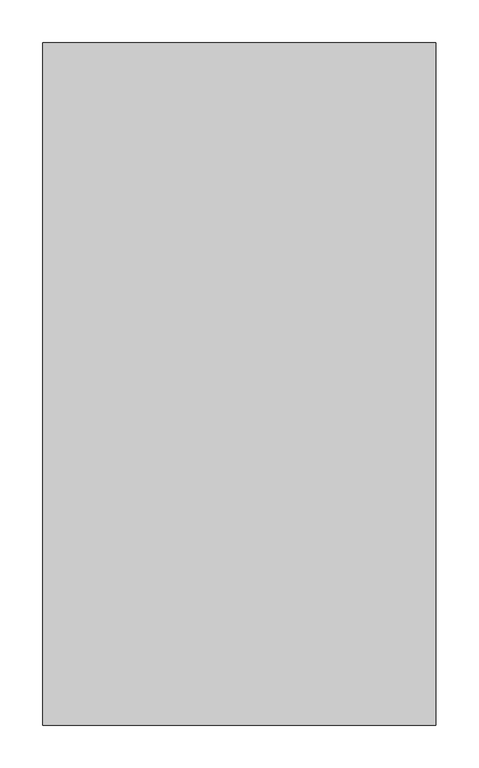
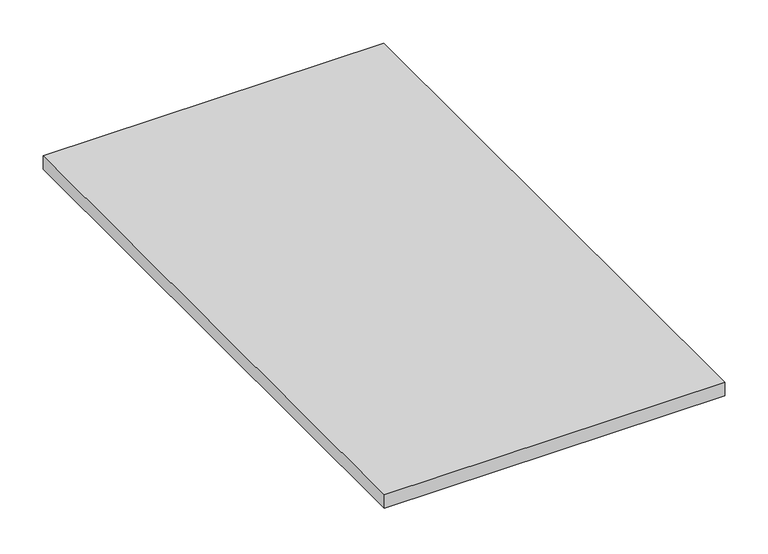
"""IFC4 building model written with IfcOpenShell, lengths in millimetres: furniture geometry, Geiger_GeigerOneCasegoods_VerticalStorageTopCapSingleSidedApplication : Stone 18Wx 61.25Dx 0.75H."""

from ifc_helpers import new_model, si_unit, frame, origin, origin_with_axes, place, context, project, spatial, polyline, outline, extrude, source, transform, mapped, element, save


def furniture_8a5296c4(model_context):
    return source(origin(), model_context, "Body", "SweptSolid", [
        extrude(outline(polyline([(457.2, 0.0), (0.0, 0.0), (0.0, 793.75), (457.2, 793.75), (457.2, 0.0)])), frame((0.0, 0.0, 3.2), z_axis=(0.0, 0.0, 1.0), x_axis=(1.0, 0.0, 0.0)), (0.0, 0.0, 1.0), 19.0),
        extrude(outline(polyline([(450.85, 6.35), (6.35, 6.35), (6.35, 765.75), (450.85, 765.75), (450.85, 6.35)])), origin_with_axes(), (0.0, 0.0, 1.0), 3.2),
    ])


if __name__ == "__main__":
    model = new_model("IFC4")
    model_context = context("Model", 3, world=origin())
    ifc_project = project(units=[si_unit("LENGTHUNIT", "METRE", prefix="MILLI")], contexts=[model_context])
    site = spatial("IfcSite", under=ifc_project)
    building = spatial("IfcBuilding", under=site)
    placement = place(None, origin())
    furniture_shape = furniture_8a5296c4(model_context)
    element("IfcFurniture", 1, ObjectType="Geiger_GeigerOneCasegoods_VerticalStorageTopCapSingleSidedApplication : Stone 18Wx 61.25Dx 0.75H", at=placement, inside=building, context=model_context, shape_type="MappedRepresentation", body=[
        mapped(furniture_shape, transform((0.0, 0.0, 0.0), x_axis=(1.0, 0.0, 0.0), y_axis=(0.0, 1.0, 0.0), z_axis=(0.0, 0.0, 1.0))),
    ])
    save(model, "model.ifc")
